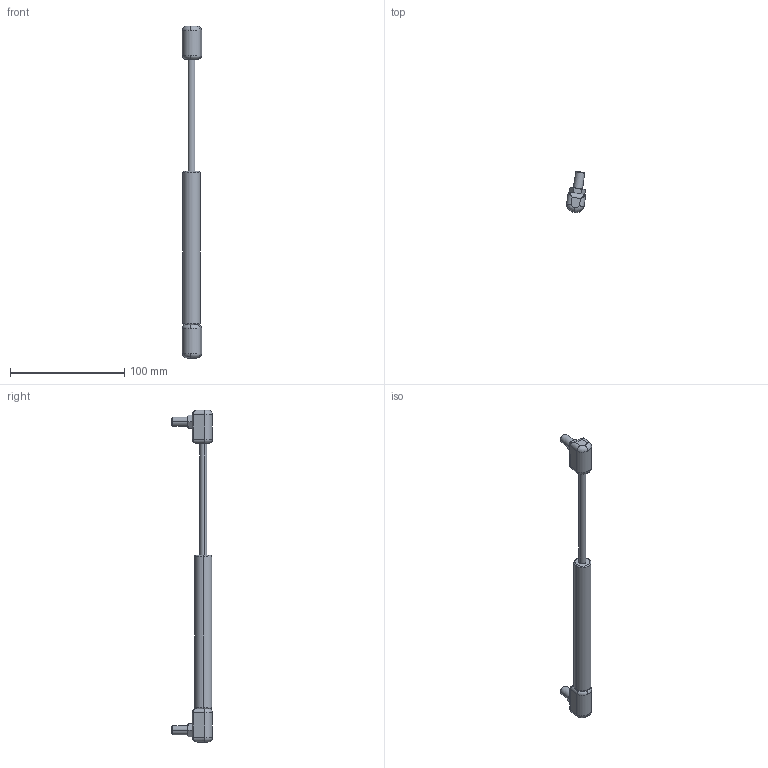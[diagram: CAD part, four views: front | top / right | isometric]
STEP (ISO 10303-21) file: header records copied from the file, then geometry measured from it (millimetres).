
FILE_DESCRIPTION (( 'STEP AP214' ), '1' );
FILE_NAME ('2.8002 6_15 100mm 250N.STEP', '2024-06-27T11:13:54', ( '' ), ( '' ), 'SwSTEP 2.0', 'SolidWorks 2024', '' );
FILE_SCHEMA (( 'AUTOMOTIVE_DESIGN' ));
Length unit declared in the file: millimetre
Products named in the file (4): Päätykiinnike M6; 6_15 100mm Mäntä; 2.8002 6_15 100mm 250N; 6_15 100mm Runko
Assembly tree (4 placements, depth 2):
  2.8002 6_15 100mm 250N
    6_15 100mm Runko
    6_15 100mm Mäntä
    Päätykiinnike M6  x2
Bounding box: 16.88 x 35.71 x 290.6 mm (x, y, z)
Volume: 39021.8 mm3; surface area: 16836.4 mm2
Topology: 4 solids, 4 shells, 110 faces, 244 edges, 136 vertices
Faces by surface type: cylinder 46, plane 34, torus 12, cone 10, bspline 8
Entity records: 2247 total; most frequent: CARTESIAN_POINT 571, DIRECTION 298, ORIENTED_EDGE 268, EDGE_CURVE 134, AXIS2_PLACEMENT_3D 118, VERTEX_POINT 79, EDGE_LOOP 69, FACE_OUTER_BOUND 65
